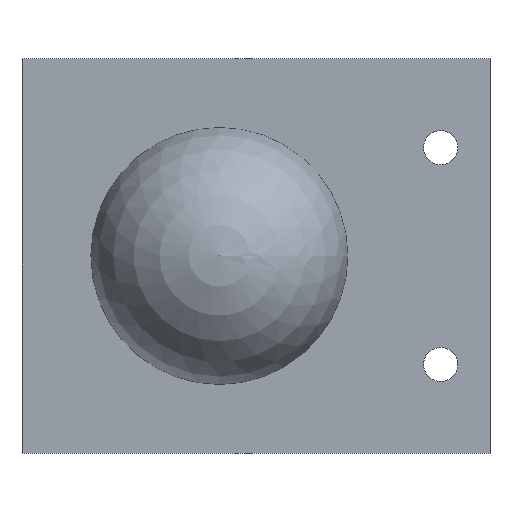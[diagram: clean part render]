
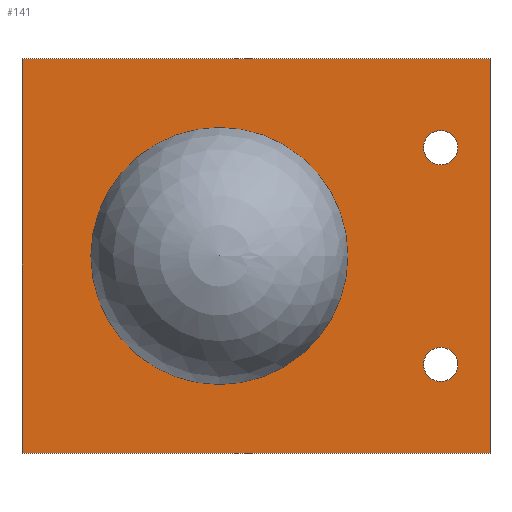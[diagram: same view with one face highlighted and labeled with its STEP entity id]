
A CAD part, top view. The second image highlights one B-rep face of the part: STEP entity #141.
In plain terms, the highlighted planar face has unit normal (0, 0, 1).
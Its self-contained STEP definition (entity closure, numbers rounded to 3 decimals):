
#69=CARTESIAN_POINT('',(3.25,0.,1.49));
#70=DIRECTION('',(0.,0.,1.));
#71=DIRECTION('',(1.,0.,0.));
#72=AXIS2_PLACEMENT_3D('',#69,#70,#71);
#73=PLANE('',#72);
#74=CARTESIAN_POINT('',(11.393,-0.,1.49));
#75=VERTEX_POINT('',#74);
#76=CARTESIAN_POINT('',(0.,0.,1.49));
#77=DIRECTION('',(0.,0.,1.));
#78=DIRECTION('',(1.,0.,-0.));
#79=AXIS2_PLACEMENT_3D('',#76,#77,#78);
#80=CIRCLE('',#79,11.393);
#81=EDGE_CURVE('',#75,#75,#80,.T.);
#82=ORIENTED_EDGE('',*,*,#81,.F.);
#83=EDGE_LOOP('',(#82));
#84=FACE_BOUND('',#83,.T.);
#85=CARTESIAN_POINT('',(21.14,9.6,1.49));
#86=VERTEX_POINT('',#85);
#87=CARTESIAN_POINT('',(19.625,9.6,1.49));
#88=DIRECTION('',(0.,0.,-1.));
#89=DIRECTION('',(1.,0.,0.));
#90=AXIS2_PLACEMENT_3D('',#87,#88,#89);
#91=CIRCLE('',#90,1.515);
#92=EDGE_CURVE('',#86,#86,#91,.T.);
#93=ORIENTED_EDGE('',*,*,#92,.T.);
#94=EDGE_LOOP('',(#93));
#95=FACE_BOUND('',#94,.T.);
#96=CARTESIAN_POINT('',(21.14,-9.62,1.49));
#97=VERTEX_POINT('',#96);
#98=CARTESIAN_POINT('',(19.625,-9.62,1.49));
#99=DIRECTION('',(0.,0.,-1.));
#100=DIRECTION('',(1.,0.,0.));
#101=AXIS2_PLACEMENT_3D('',#98,#99,#100);
#102=CIRCLE('',#101,1.515);
#103=EDGE_CURVE('',#97,#97,#102,.T.);
#104=ORIENTED_EDGE('',*,*,#103,.T.);
#105=EDGE_LOOP('',(#104));
#106=FACE_BOUND('',#105,.T.);
#107=CARTESIAN_POINT('',(24.,-17.5,1.49));
#108=VERTEX_POINT('',#107);
#109=CARTESIAN_POINT('',(-17.5,-17.5,1.49));
#110=VERTEX_POINT('',#109);
#111=CARTESIAN_POINT('',(24.,-17.5,1.49));
#112=DIRECTION('',(-1.,0.,0.));
#113=VECTOR('',#112,41.5);
#114=LINE('',#111,#113);
#115=EDGE_CURVE('',#108,#110,#114,.T.);
#116=ORIENTED_EDGE('',*,*,#115,.F.);
#117=CARTESIAN_POINT('',(24.,17.5,1.49));
#118=VERTEX_POINT('',#117);
#119=CARTESIAN_POINT('',(24.,17.5,1.49));
#120=DIRECTION('',(0.,-1.,0.));
#121=VECTOR('',#120,35.);
#122=LINE('',#119,#121);
#123=EDGE_CURVE('',#118,#108,#122,.T.);
#124=ORIENTED_EDGE('',*,*,#123,.F.);
#125=CARTESIAN_POINT('',(-17.5,17.5,1.49));
#126=VERTEX_POINT('',#125);
#127=CARTESIAN_POINT('',(-17.5,17.5,1.49));
#128=DIRECTION('',(1.,0.,-0.));
#129=VECTOR('',#128,41.5);
#130=LINE('',#127,#129);
#131=EDGE_CURVE('',#126,#118,#130,.T.);
#132=ORIENTED_EDGE('',*,*,#131,.F.);
#133=CARTESIAN_POINT('',(-17.5,-17.5,1.49));
#134=DIRECTION('',(0.,1.,0.));
#135=VECTOR('',#134,35.);
#136=LINE('',#133,#135);
#137=EDGE_CURVE('',#110,#126,#136,.T.);
#138=ORIENTED_EDGE('',*,*,#137,.F.);
#139=EDGE_LOOP('',(#116,#124,#132,#138));
#140=FACE_BOUND('',#139,.T.);
#141=ADVANCED_FACE('',(#84,#95,#106,#140),#73,.T.);
